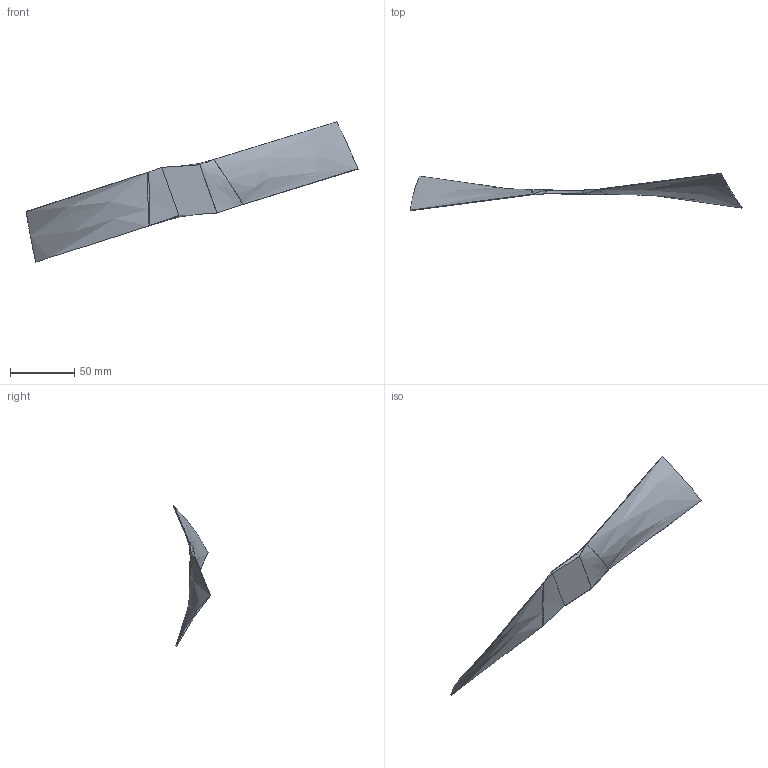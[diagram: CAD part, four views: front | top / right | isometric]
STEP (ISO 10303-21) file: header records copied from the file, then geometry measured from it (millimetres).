
FILE_DESCRIPTION(('CATIA V5 STEP Exchange'),'2;1');
FILE_NAME('E:\WAT\Sprezarka\122_00_00_Tlocznik2\Tlocznik2_stp\Lopatka_wyprostowana.stp','2022-12-06T12:23:07+00:00',('none'),('none'),'CATIA Version 5 Release 20 SP 4 (IN-10)','CATIA V5 STEP AP214','none');
FILE_SCHEMA(('AUTOMOTIVE_DESIGN { 1 0 10303 214 1 1 1 1 }'));
Length unit declared in the file: millimetre
Products named in the file (1): Lopatka_wyprostowana
Bounding box: 258.24 x 29 x 109.08 mm (x, y, z)
Surface area: 22282.8 mm2 (no closed solid volume)
Topology: 0 solids, 25 shells, 29 faces, 149 edges, 143 vertices
Faces by surface type: bspline 26, plane 3
Entity records: 3286 total; most frequent: CARTESIAN_POINT 2317, ORIENTED_EDGE 151, EDGE_CURVE 147, VERTEX_POINT 143, B_SPLINE_CURVE_WITH_KNOTS 142, ADVANCED_FACE 29, EDGE_LOOP 29, FACE_OUTER_BOUND 29
